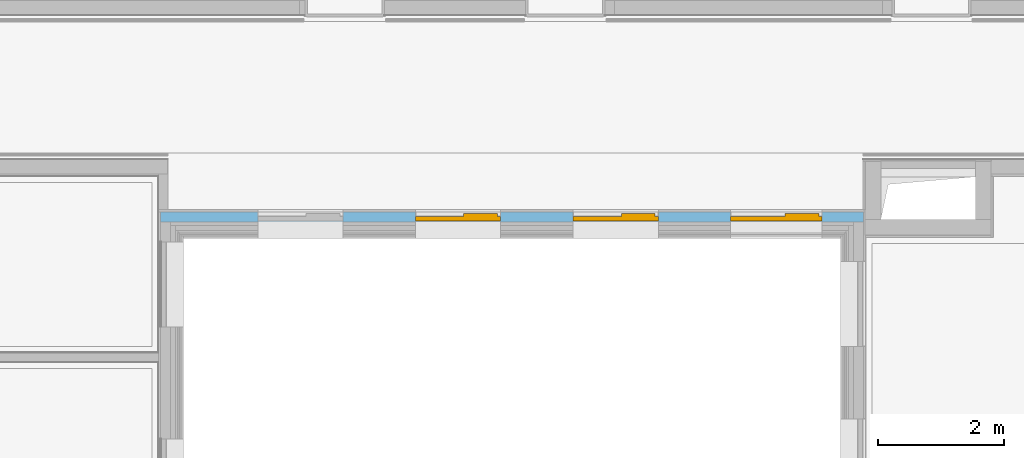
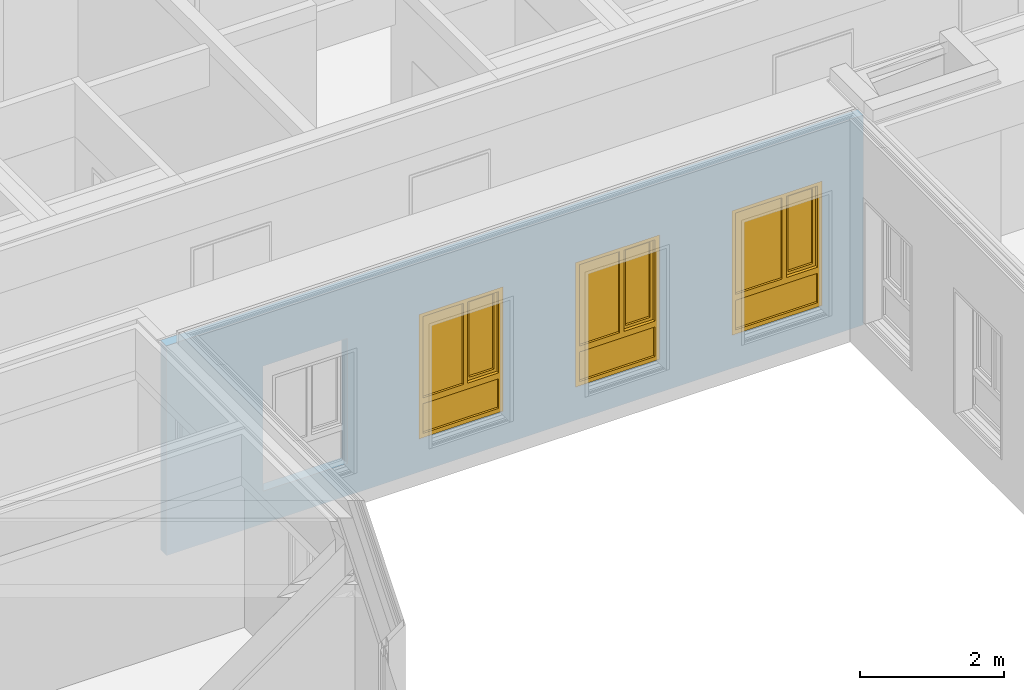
# One storey, part 76 of 222: 3 windows, 4 openings, plus 1 element that does not belong to this part.
"""IFC4 building model written with IfcOpenShell, lengths in metres."""

from ifc_helpers import new_model, entity, si_unit, converted_unit, derived_unit, frame, frame_2d, origin, origin_with_axes, place, context, subcontext, project, spatial, polyline, rectangle, outline, extrude, closed_shell, open_shell, surface_model, source, transform, mapped, material, element, fill, save


model = new_model("IFC4")

# Units and contexts
model_context = context("Model", 3, precision=1e-05, world=origin())
body_context = subcontext(model_context, "Body", "Model", "MODEL_VIEW")
ifc_project = project(units=[si_unit("LENGTHUNIT", "METRE"), si_unit("AREAUNIT", "SQUARE_METRE"), si_unit("VOLUMEUNIT", "CUBIC_METRE"), si_unit("MASSUNIT", "GRAM", prefix="KILO"), converted_unit("PLANEANGLEUNIT", "DEGREE", entity("IfcPlaneAngleMeasure", 0.0174532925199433), si_unit("PLANEANGLEUNIT", "RADIAN"), dimensions=[0, 0, 0, 0, 0, 0, 0]), derived_unit("THERMALTRANSMITTANCEUNIT", [(si_unit("POWERUNIT", "WATT"), 1), (si_unit("THERMODYNAMICTEMPERATUREUNIT", "KELVIN"), -1), (si_unit("LENGTHUNIT", "METRE"), -2)]), derived_unit("VOLUMETRICFLOWRATEUNIT", [(si_unit("LENGTHUNIT", "METRE"), 3), (converted_unit("TIMEUNIT", "hour", entity("IfcTimeMeasure", 3600.0), si_unit("TIMEUNIT", "SECOND"), dimensions=[0, 0, 1, 0, 0, 0, 0]), -1), (si_unit("LENGTHUNIT", "METRE"), -1)])], contexts=[model_context])

# Site, building, storey
site_placement = place(None, origin())
site = spatial("IfcSite", under=ifc_project, at=site_placement, Name="Psychiatrie Neubau Wunstorf", CompositionType="ELEMENT")
building_placement = place(site_placement, origin())
building = spatial("IfcBuilding", under=site, at=building_placement, Name="Neubau H2 Stationsgebäude", CompositionType="ELEMENT")
storey_placement = place(building_placement, frame((0.0, 0.0, 3.6)))
storey = spatial("IfcBuildingStorey", under=building, at=storey_placement, Name="H2 Ebene +1", CompositionType="ELEMENT", Elevation=3.6)

# Wall, openings, windows
ifc_material = material(Name="WA-DL")
wall_placement = place(storey_placement, frame((26.825, 21.0016528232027, 0.0), z_axis=(0.0, 0.0, 1.0), x_axis=(-1.0, 0.0, 0.0)))
wall = element("IfcWall", 1, at=wall_placement, inside=storey, material=ifc_material, context=body_context, shape_type="SweptSolid", body=[
    extrude(rectangle(XDim=11.15, YDim=0.16, at=frame_2d((5.575, 0.08), x_axis=(1.0, 0.0))), origin_with_axes(), (0.0, 0.0, 1.0), 3.55),
])
opening_1_placement = place(wall_placement, frame((2.10483590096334, 0.16, 0.55), z_axis=(0.0, -1.0, 0.0), x_axis=(0.0, 0.0, 1.0)))
opening_1 = element("IfcOpeningElement", 2, at=opening_1_placement, cuts=wall, Name="Fensteröffnung", ObjectType="Opening", context=body_context, shape_type="SweptSolid", body=[
    extrude(outline(polyline([(2.115, 1.45), (2.115, 0.0), (0.0, 0.0), (0.0, 1.45), (2.115, 1.45)])), origin_with_axes(), (0.0, 0.0, 1.0), 0.16),
])
opening_2_placement = place(wall_placement, frame((4.60474878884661, 0.16, 0.55), z_axis=(0.0, -1.0, 0.0), x_axis=(0.0, 0.0, 1.0)))
opening_2 = element("IfcOpeningElement", 3, at=opening_2_placement, cuts=wall, Name="Fensteröffnung", ObjectType="Opening", context=body_context, shape_type="SweptSolid", body=[
    extrude(outline(polyline([(2.115, 1.35), (2.115, 0.0), (0.0, 0.0), (0.0, 1.35), (2.115, 1.35)])), origin_with_axes(), (0.0, 0.0, 1.0), 0.16),
])
opening_3_placement = place(wall_placement, frame((7.1047487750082, 0.16, 0.55), z_axis=(0.0, -1.0, 0.0), x_axis=(0.0, 0.0, 1.0)))
opening_3 = element("IfcOpeningElement", 4, at=opening_3_placement, cuts=wall, Name="Fensteröffnung", ObjectType="Opening", context=body_context, shape_type="SweptSolid", body=[
    extrude(outline(polyline([(2.115, 1.35), (2.115, 0.0), (0.0, 0.0), (0.0, 1.35), (2.115, 1.35)])), origin_with_axes(), (0.0, 0.0, 1.0), 0.16),
])
opening_4_placement = place(wall_placement, frame((9.60474878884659, 0.16, 0.55), z_axis=(0.0, -1.0, 0.0), x_axis=(0.0, 0.0, 1.0)))
element("IfcOpeningElement", 5, at=opening_4_placement, cuts=wall, Name="Fensteröffnung", ObjectType="Opening", context=body_context, shape_type="SweptSolid", body=[
    extrude(outline(polyline([(2.115, 1.35), (2.115, 0.0), (0.0, 0.0), (0.0, 1.35), (2.115, 1.35)])), origin_with_axes(), (0.0, 0.0, 1.0), 0.16),
])
shared_shape_1 = source(origin_with_axes(), body_context, "Body", "SurfaceModel", [
    surface_model("IfcShellBasedSurfaceModel", [(0.0, 0.000347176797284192, 2.115), (0.07, 0.000347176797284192, 2.115), (0.07, 0.000347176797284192, 0.0), (0.0, 0.000347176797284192, 0.0), (0.0, 0.0703471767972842, 0.0), (0.07, 0.0703471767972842, 0.0), (0.07, 0.0703471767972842, 2.115), (0.0, 0.0703471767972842, 2.115)], [closed_shell([[[0, 1, 2, 3]], [[4, 5, 6, 7]], [[3, 4, 7, 0]], [[2, 5, 4, 3]], [[1, 6, 5, 2]], [[0, 7, 6, 1]]], orient=[[False], [False], [False], [False], [False], [False]])]),
    surface_model("IfcShellBasedSurfaceModel", [(1.38, 0.000347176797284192, 2.115), (1.45, 0.000347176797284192, 2.115), (1.45, 0.000347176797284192, 0.0), (1.38, 0.000347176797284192, 0.0), (1.38, 0.0703471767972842, 0.0), (1.45, 0.0703471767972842, 0.0), (1.45, 0.0703471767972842, 2.115), (1.38, 0.0703471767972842, 2.115)], [closed_shell([[[0, 1, 2, 3]], [[4, 5, 6, 7]], [[3, 4, 7, 0]], [[2, 5, 4, 3]], [[1, 6, 5, 2]], [[0, 7, 6, 1]]], orient=[[False], [False], [False], [False], [False], [False]])]),
    surface_model("IfcShellBasedSurfaceModel", [(0.07, 0.000347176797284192, 0.07), (1.38, 0.000347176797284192, 0.07), (1.38, 0.000347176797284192, 0.0), (0.07, 0.000347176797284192, 0.0), (0.07, 0.0703471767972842, 0.0), (1.38, 0.0703471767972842, 0.0), (1.38, 0.0703471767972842, 0.07), (0.07, 0.0703471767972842, 0.07)], [closed_shell([[[0, 1, 2, 3]], [[4, 5, 6, 7]], [[3, 4, 7, 0]], [[2, 5, 4, 3]], [[1, 6, 5, 2]], [[0, 7, 6, 1]]], orient=[[False], [False], [False], [False], [False], [False]])]),
    surface_model("IfcShellBasedSurfaceModel", [(0.07, 0.000347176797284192, 2.115), (1.38, 0.000347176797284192, 2.115), (1.38, 0.000347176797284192, 2.045), (0.07, 0.000347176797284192, 2.045), (0.07, 0.0703471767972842, 2.045), (1.38, 0.0703471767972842, 2.045), (1.38, 0.0703471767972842, 2.115), (0.07, 0.0703471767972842, 2.115)], [closed_shell([[[0, 1, 2, 3]], [[4, 5, 6, 7]], [[3, 4, 7, 0]], [[2, 5, 4, 3]], [[1, 6, 5, 2]], [[0, 7, 6, 1]]], orient=[[False], [False], [False], [False], [False], [False]])]),
    surface_model("IfcShellBasedSurfaceModel", [(0.07, 0.000347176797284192, 0.67), (1.38, 0.000347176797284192, 0.67), (1.38, 0.000347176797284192, 0.57), (0.07, 0.000347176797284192, 0.57), (0.07, 0.0703471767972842, 0.57), (1.38, 0.0703471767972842, 0.57), (1.38, 0.0703471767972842, 0.67), (0.07, 0.0703471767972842, 0.67)], [closed_shell([[[0, 1, 2, 3]], [[4, 5, 6, 7]], [[3, 4, 7, 0]], [[2, 5, 4, 3]], [[1, 6, 5, 2]], [[0, 7, 6, 1]]], orient=[[False], [False], [False], [False], [False], [False]])]),
    surface_model("IfcShellBasedSurfaceModel", [(0.07, 0.0353471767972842, 0.07), (0.07, 0.0353471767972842, 0.57), (1.38, 0.0353471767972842, 0.57), (1.38, 0.0353471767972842, 0.07)], [open_shell([[[0, 1, 2, 3]]], orient=[[False]])]),
    surface_model("IfcShellBasedSurfaceModel", [(0.565700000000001, 0.000347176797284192, 2.045), (0.635700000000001, 0.000347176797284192, 2.045), (0.635700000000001, 0.000347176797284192, 0.67), (0.565700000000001, 0.000347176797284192, 0.67), (0.565700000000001, 0.0703471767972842, 0.67), (0.635700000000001, 0.0703471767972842, 0.67), (0.635700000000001, 0.0703471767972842, 2.045), (0.565700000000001, 0.0703471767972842, 2.045)], [closed_shell([[[0, 1, 2, 3]], [[4, 5, 6, 7]], [[3, 4, 7, 0]], [[2, 5, 4, 3]], [[1, 6, 5, 2]], [[0, 7, 6, 1]]], orient=[[False], [False], [False], [False], [False], [False]])]),
    surface_model("IfcShellBasedSurfaceModel", [(0.05, -0.0496528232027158, 2.065), (0.12, -0.0496528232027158, 2.065), (0.12, -0.0496528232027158, 0.65), (0.05, -0.0496528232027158, 0.65), (0.05, 0.0203471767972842, 0.65), (0.12, 0.0203471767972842, 0.65), (0.12, 0.0203471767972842, 2.065), (0.05, 0.0203471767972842, 2.065)], [closed_shell([[[0, 1, 2, 3]], [[4, 5, 6, 7]], [[3, 4, 7, 0]], [[2, 5, 4, 3]], [[1, 6, 5, 2]], [[0, 7, 6, 1]]], orient=[[False], [False], [False], [False], [False], [False]])]),
    surface_model("IfcShellBasedSurfaceModel", [(0.515700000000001, -0.0496528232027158, 2.065), (0.585700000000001, -0.0496528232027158, 2.065), (0.585700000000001, -0.0496528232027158, 0.65), (0.515700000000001, -0.0496528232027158, 0.65), (0.515700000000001, 0.0203471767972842, 0.65), (0.585700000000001, 0.0203471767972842, 0.65), (0.585700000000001, 0.0203471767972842, 2.065), (0.515700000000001, 0.0203471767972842, 2.065)], [closed_shell([[[0, 1, 2, 3]], [[4, 5, 6, 7]], [[3, 4, 7, 0]], [[2, 5, 4, 3]], [[1, 6, 5, 2]], [[0, 7, 6, 1]]], orient=[[False], [False], [False], [False], [False], [False]])]),
    surface_model("IfcShellBasedSurfaceModel", [(0.12, -0.0496528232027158, 0.72), (0.515700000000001, -0.0496528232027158, 0.72), (0.515700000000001, -0.0496528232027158, 0.65), (0.12, -0.0496528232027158, 0.65), (0.12, 0.0203471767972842, 0.65), (0.515700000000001, 0.0203471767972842, 0.65), (0.515700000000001, 0.0203471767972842, 0.72), (0.12, 0.0203471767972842, 0.72)], [closed_shell([[[0, 1, 2, 3]], [[4, 5, 6, 7]], [[3, 4, 7, 0]], [[2, 5, 4, 3]], [[1, 6, 5, 2]], [[0, 7, 6, 1]]], orient=[[False], [False], [False], [False], [False], [False]])]),
    surface_model("IfcShellBasedSurfaceModel", [(0.12, -0.0496528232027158, 2.065), (0.515700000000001, -0.0496528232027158, 2.065), (0.515700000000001, -0.0496528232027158, 1.995), (0.12, -0.0496528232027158, 1.995), (0.12, 0.0203471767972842, 1.995), (0.515700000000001, 0.0203471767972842, 1.995), (0.515700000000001, 0.0203471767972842, 2.065), (0.12, 0.0203471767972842, 2.065)], [closed_shell([[[0, 1, 2, 3]], [[4, 5, 6, 7]], [[3, 4, 7, 0]], [[2, 5, 4, 3]], [[1, 6, 5, 2]], [[0, 7, 6, 1]]], orient=[[False], [False], [False], [False], [False], [False]])]),
    surface_model("IfcShellBasedSurfaceModel", [(0.635700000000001, 0.0353471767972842, 0.67), (0.635700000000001, 0.0353471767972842, 2.045), (1.38, 0.0353471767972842, 2.045), (1.38, 0.0353471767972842, 0.67)], [open_shell([[[0, 1, 2, 3]]], orient=[[False]])]),
    surface_model("IfcShellBasedSurfaceModel", [(0.12, -0.0146528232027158, 0.72), (0.12, -0.0146528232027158, 1.995), (0.515700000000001, -0.0146528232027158, 1.995), (0.515700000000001, -0.0146528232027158, 0.72)], [open_shell([[[0, 1, 2, 3]]], orient=[[False]])]),
])
window_1_placement = place(opening_1_placement, frame((0.0, 1.45, 0.0863471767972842), z_axis=(1.0, 0.0, 0.0), x_axis=(0.0, -1.0, 0.0)))
window_1 = element("IfcWindow", 6, at=window_1_placement, inside=storey, Name="Fenster", OverallHeight=2.115, OverallWidth=1.45, PartitioningType="USERDEFINED", PredefinedType="WINDOW", context=body_context, shape_type="MappedRepresentation", body=[
    mapped(shared_shape_1, transform((0.0, 0.0, 0.0), x_axis=(1.0, 0.0, 0.0), y_axis=(0.0, 1.0, 0.0), z_axis=(0.0, 0.0, 1.0), scale=1.0)),
])
fill(opening_1, window_1)
shared_shape_2 = source(origin_with_axes(), body_context, "Body", "SurfaceModel", [
    surface_model("IfcShellBasedSurfaceModel", [(0.0, 0.000347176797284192, 2.115), (0.07, 0.000347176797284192, 2.115), (0.07, 0.000347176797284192, 0.0), (0.0, 0.000347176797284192, 0.0), (0.0, 0.0703471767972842, 0.0), (0.07, 0.0703471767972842, 0.0), (0.07, 0.0703471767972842, 2.115), (0.0, 0.0703471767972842, 2.115)], [closed_shell([[[0, 1, 2, 3]], [[4, 5, 6, 7]], [[3, 4, 7, 0]], [[2, 5, 4, 3]], [[1, 6, 5, 2]], [[0, 7, 6, 1]]], orient=[[False], [False], [False], [False], [False], [False]])]),
    surface_model("IfcShellBasedSurfaceModel", [(1.28, 0.000347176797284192, 2.115), (1.35, 0.000347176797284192, 2.115), (1.35, 0.000347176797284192, 0.0), (1.28, 0.000347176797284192, 0.0), (1.28, 0.0703471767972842, 0.0), (1.35, 0.0703471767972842, 0.0), (1.35, 0.0703471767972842, 2.115), (1.28, 0.0703471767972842, 2.115)], [closed_shell([[[0, 1, 2, 3]], [[4, 5, 6, 7]], [[3, 4, 7, 0]], [[2, 5, 4, 3]], [[1, 6, 5, 2]], [[0, 7, 6, 1]]], orient=[[False], [False], [False], [False], [False], [False]])]),
    surface_model("IfcShellBasedSurfaceModel", [(0.07, 0.000347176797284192, 0.07), (1.28, 0.000347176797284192, 0.07), (1.28, 0.000347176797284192, 0.0), (0.07, 0.000347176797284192, 0.0), (0.07, 0.0703471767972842, 0.0), (1.28, 0.0703471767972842, 0.0), (1.28, 0.0703471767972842, 0.07), (0.07, 0.0703471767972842, 0.07)], [closed_shell([[[0, 1, 2, 3]], [[4, 5, 6, 7]], [[3, 4, 7, 0]], [[2, 5, 4, 3]], [[1, 6, 5, 2]], [[0, 7, 6, 1]]], orient=[[False], [False], [False], [False], [False], [False]])]),
    surface_model("IfcShellBasedSurfaceModel", [(0.07, 0.000347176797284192, 2.115), (1.28, 0.000347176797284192, 2.115), (1.28, 0.000347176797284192, 2.045), (0.07, 0.000347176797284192, 2.045), (0.07, 0.0703471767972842, 2.045), (1.28, 0.0703471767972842, 2.045), (1.28, 0.0703471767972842, 2.115), (0.07, 0.0703471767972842, 2.115)], [closed_shell([[[0, 1, 2, 3]], [[4, 5, 6, 7]], [[3, 4, 7, 0]], [[2, 5, 4, 3]], [[1, 6, 5, 2]], [[0, 7, 6, 1]]], orient=[[False], [False], [False], [False], [False], [False]])]),
    surface_model("IfcShellBasedSurfaceModel", [(0.07, 0.000347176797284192, 0.67), (1.28, 0.000347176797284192, 0.67), (1.28, 0.000347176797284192, 0.57), (0.07, 0.000347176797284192, 0.57), (0.07, 0.0703471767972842, 0.57), (1.28, 0.0703471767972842, 0.57), (1.28, 0.0703471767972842, 0.67), (0.07, 0.0703471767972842, 0.67)], [closed_shell([[[0, 1, 2, 3]], [[4, 5, 6, 7]], [[3, 4, 7, 0]], [[2, 5, 4, 3]], [[1, 6, 5, 2]], [[0, 7, 6, 1]]], orient=[[False], [False], [False], [False], [False], [False]])]),
    surface_model("IfcShellBasedSurfaceModel", [(0.07, 0.0353471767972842, 0.07), (0.07, 0.0353471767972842, 0.57), (1.28, 0.0353471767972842, 0.57), (1.28, 0.0353471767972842, 0.07)], [open_shell([[[0, 1, 2, 3]]], orient=[[False]])]),
    surface_model("IfcShellBasedSurfaceModel", [(0.565700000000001, 0.000347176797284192, 2.045), (0.635700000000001, 0.000347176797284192, 2.045), (0.635700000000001, 0.000347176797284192, 0.67), (0.565700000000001, 0.000347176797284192, 0.67), (0.565700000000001, 0.0703471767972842, 0.67), (0.635700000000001, 0.0703471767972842, 0.67), (0.635700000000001, 0.0703471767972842, 2.045), (0.565700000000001, 0.0703471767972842, 2.045)], [closed_shell([[[0, 1, 2, 3]], [[4, 5, 6, 7]], [[3, 4, 7, 0]], [[2, 5, 4, 3]], [[1, 6, 5, 2]], [[0, 7, 6, 1]]], orient=[[False], [False], [False], [False], [False], [False]])]),
    surface_model("IfcShellBasedSurfaceModel", [(0.05, -0.0496528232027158, 2.065), (0.12, -0.0496528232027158, 2.065), (0.12, -0.0496528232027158, 0.65), (0.05, -0.0496528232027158, 0.65), (0.05, 0.0203471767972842, 0.65), (0.12, 0.0203471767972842, 0.65), (0.12, 0.0203471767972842, 2.065), (0.05, 0.0203471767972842, 2.065)], [closed_shell([[[0, 1, 2, 3]], [[4, 5, 6, 7]], [[3, 4, 7, 0]], [[2, 5, 4, 3]], [[1, 6, 5, 2]], [[0, 7, 6, 1]]], orient=[[False], [False], [False], [False], [False], [False]])]),
    surface_model("IfcShellBasedSurfaceModel", [(0.515700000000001, -0.0496528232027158, 2.065), (0.585700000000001, -0.0496528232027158, 2.065), (0.585700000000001, -0.0496528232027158, 0.65), (0.515700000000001, -0.0496528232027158, 0.65), (0.515700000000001, 0.0203471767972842, 0.65), (0.585700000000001, 0.0203471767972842, 0.65), (0.585700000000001, 0.0203471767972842, 2.065), (0.515700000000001, 0.0203471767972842, 2.065)], [closed_shell([[[0, 1, 2, 3]], [[4, 5, 6, 7]], [[3, 4, 7, 0]], [[2, 5, 4, 3]], [[1, 6, 5, 2]], [[0, 7, 6, 1]]], orient=[[False], [False], [False], [False], [False], [False]])]),
    surface_model("IfcShellBasedSurfaceModel", [(0.12, -0.0496528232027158, 0.72), (0.515700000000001, -0.0496528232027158, 0.72), (0.515700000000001, -0.0496528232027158, 0.65), (0.12, -0.0496528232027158, 0.65), (0.12, 0.0203471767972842, 0.65), (0.515700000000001, 0.0203471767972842, 0.65), (0.515700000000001, 0.0203471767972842, 0.72), (0.12, 0.0203471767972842, 0.72)], [closed_shell([[[0, 1, 2, 3]], [[4, 5, 6, 7]], [[3, 4, 7, 0]], [[2, 5, 4, 3]], [[1, 6, 5, 2]], [[0, 7, 6, 1]]], orient=[[False], [False], [False], [False], [False], [False]])]),
    surface_model("IfcShellBasedSurfaceModel", [(0.12, -0.0496528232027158, 2.065), (0.515700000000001, -0.0496528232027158, 2.065), (0.515700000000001, -0.0496528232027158, 1.995), (0.12, -0.0496528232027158, 1.995), (0.12, 0.0203471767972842, 1.995), (0.515700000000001, 0.0203471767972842, 1.995), (0.515700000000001, 0.0203471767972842, 2.065), (0.12, 0.0203471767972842, 2.065)], [closed_shell([[[0, 1, 2, 3]], [[4, 5, 6, 7]], [[3, 4, 7, 0]], [[2, 5, 4, 3]], [[1, 6, 5, 2]], [[0, 7, 6, 1]]], orient=[[False], [False], [False], [False], [False], [False]])]),
    surface_model("IfcShellBasedSurfaceModel", [(0.635700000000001, 0.0353471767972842, 0.67), (0.635700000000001, 0.0353471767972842, 2.045), (1.28, 0.0353471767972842, 2.045), (1.28, 0.0353471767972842, 0.67)], [open_shell([[[0, 1, 2, 3]]], orient=[[False]])]),
    surface_model("IfcShellBasedSurfaceModel", [(0.12, -0.0146528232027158, 0.72), (0.12, -0.0146528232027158, 1.995), (0.515700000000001, -0.0146528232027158, 1.995), (0.515700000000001, -0.0146528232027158, 0.72)], [open_shell([[[0, 1, 2, 3]]], orient=[[False]])]),
])
window_2_placement = place(opening_2_placement, frame((0.0, 1.35, 0.0863471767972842), z_axis=(1.0, 0.0, 0.0), x_axis=(0.0, -1.0, 0.0)))
window_2 = element("IfcWindow", 7, at=window_2_placement, inside=storey, Name="Fenster", OverallHeight=2.115, OverallWidth=1.35, PartitioningType="USERDEFINED", PredefinedType="WINDOW", context=body_context, shape_type="MappedRepresentation", body=[
    mapped(shared_shape_2, transform((0.0, 0.0, 0.0), x_axis=(1.0, 0.0, 0.0), y_axis=(0.0, 1.0, 0.0), z_axis=(0.0, 0.0, 1.0), scale=1.0)),
])
fill(opening_2, window_2)
shared_shape_3 = source(origin_with_axes(), body_context, "Body", "SurfaceModel", [
    surface_model("IfcShellBasedSurfaceModel", [(0.0, 0.000347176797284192, 2.115), (0.07, 0.000347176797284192, 2.115), (0.07, 0.000347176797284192, 0.0), (0.0, 0.000347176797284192, 0.0), (0.0, 0.0703471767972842, 0.0), (0.07, 0.0703471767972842, 0.0), (0.07, 0.0703471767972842, 2.115), (0.0, 0.0703471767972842, 2.115)], [closed_shell([[[0, 1, 2, 3]], [[4, 5, 6, 7]], [[3, 4, 7, 0]], [[2, 5, 4, 3]], [[1, 6, 5, 2]], [[0, 7, 6, 1]]], orient=[[False], [False], [False], [False], [False], [False]])]),
    surface_model("IfcShellBasedSurfaceModel", [(1.28, 0.000347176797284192, 2.115), (1.35, 0.000347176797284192, 2.115), (1.35, 0.000347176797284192, 0.0), (1.28, 0.000347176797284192, 0.0), (1.28, 0.0703471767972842, 0.0), (1.35, 0.0703471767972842, 0.0), (1.35, 0.0703471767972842, 2.115), (1.28, 0.0703471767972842, 2.115)], [closed_shell([[[0, 1, 2, 3]], [[4, 5, 6, 7]], [[3, 4, 7, 0]], [[2, 5, 4, 3]], [[1, 6, 5, 2]], [[0, 7, 6, 1]]], orient=[[False], [False], [False], [False], [False], [False]])]),
    surface_model("IfcShellBasedSurfaceModel", [(0.07, 0.000347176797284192, 0.07), (1.28, 0.000347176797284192, 0.07), (1.28, 0.000347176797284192, 0.0), (0.07, 0.000347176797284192, 0.0), (0.07, 0.0703471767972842, 0.0), (1.28, 0.0703471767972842, 0.0), (1.28, 0.0703471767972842, 0.07), (0.07, 0.0703471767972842, 0.07)], [closed_shell([[[0, 1, 2, 3]], [[4, 5, 6, 7]], [[3, 4, 7, 0]], [[2, 5, 4, 3]], [[1, 6, 5, 2]], [[0, 7, 6, 1]]], orient=[[False], [False], [False], [False], [False], [False]])]),
    surface_model("IfcShellBasedSurfaceModel", [(0.07, 0.000347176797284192, 2.115), (1.28, 0.000347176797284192, 2.115), (1.28, 0.000347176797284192, 2.045), (0.07, 0.000347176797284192, 2.045), (0.07, 0.0703471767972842, 2.045), (1.28, 0.0703471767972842, 2.045), (1.28, 0.0703471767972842, 2.115), (0.07, 0.0703471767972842, 2.115)], [closed_shell([[[0, 1, 2, 3]], [[4, 5, 6, 7]], [[3, 4, 7, 0]], [[2, 5, 4, 3]], [[1, 6, 5, 2]], [[0, 7, 6, 1]]], orient=[[False], [False], [False], [False], [False], [False]])]),
    surface_model("IfcShellBasedSurfaceModel", [(0.07, 0.000347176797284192, 0.67), (1.28, 0.000347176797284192, 0.67), (1.28, 0.000347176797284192, 0.57), (0.07, 0.000347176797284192, 0.57), (0.07, 0.0703471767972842, 0.57), (1.28, 0.0703471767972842, 0.57), (1.28, 0.0703471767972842, 0.67), (0.07, 0.0703471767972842, 0.67)], [closed_shell([[[0, 1, 2, 3]], [[4, 5, 6, 7]], [[3, 4, 7, 0]], [[2, 5, 4, 3]], [[1, 6, 5, 2]], [[0, 7, 6, 1]]], orient=[[False], [False], [False], [False], [False], [False]])]),
    surface_model("IfcShellBasedSurfaceModel", [(0.07, 0.0353471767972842, 0.07), (0.07, 0.0353471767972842, 0.57), (1.28, 0.0353471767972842, 0.57), (1.28, 0.0353471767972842, 0.07)], [open_shell([[[0, 1, 2, 3]]], orient=[[False]])]),
    surface_model("IfcShellBasedSurfaceModel", [(0.565700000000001, 0.000347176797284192, 2.045), (0.635700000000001, 0.000347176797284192, 2.045), (0.635700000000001, 0.000347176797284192, 0.67), (0.565700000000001, 0.000347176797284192, 0.67), (0.565700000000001, 0.0703471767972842, 0.67), (0.635700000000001, 0.0703471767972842, 0.67), (0.635700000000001, 0.0703471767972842, 2.045), (0.565700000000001, 0.0703471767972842, 2.045)], [closed_shell([[[0, 1, 2, 3]], [[4, 5, 6, 7]], [[3, 4, 7, 0]], [[2, 5, 4, 3]], [[1, 6, 5, 2]], [[0, 7, 6, 1]]], orient=[[False], [False], [False], [False], [False], [False]])]),
    surface_model("IfcShellBasedSurfaceModel", [(0.05, -0.0496528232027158, 2.065), (0.12, -0.0496528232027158, 2.065), (0.12, -0.0496528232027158, 0.65), (0.05, -0.0496528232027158, 0.65), (0.05, 0.0203471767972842, 0.65), (0.12, 0.0203471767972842, 0.65), (0.12, 0.0203471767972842, 2.065), (0.05, 0.0203471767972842, 2.065)], [closed_shell([[[0, 1, 2, 3]], [[4, 5, 6, 7]], [[3, 4, 7, 0]], [[2, 5, 4, 3]], [[1, 6, 5, 2]], [[0, 7, 6, 1]]], orient=[[False], [False], [False], [False], [False], [False]])]),
    surface_model("IfcShellBasedSurfaceModel", [(0.515700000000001, -0.0496528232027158, 2.065), (0.585700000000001, -0.0496528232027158, 2.065), (0.585700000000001, -0.0496528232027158, 0.65), (0.515700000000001, -0.0496528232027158, 0.65), (0.515700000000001, 0.0203471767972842, 0.65), (0.585700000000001, 0.0203471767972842, 0.65), (0.585700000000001, 0.0203471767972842, 2.065), (0.515700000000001, 0.0203471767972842, 2.065)], [closed_shell([[[0, 1, 2, 3]], [[4, 5, 6, 7]], [[3, 4, 7, 0]], [[2, 5, 4, 3]], [[1, 6, 5, 2]], [[0, 7, 6, 1]]], orient=[[False], [False], [False], [False], [False], [False]])]),
    surface_model("IfcShellBasedSurfaceModel", [(0.12, -0.0496528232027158, 0.72), (0.515700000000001, -0.0496528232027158, 0.72), (0.515700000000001, -0.0496528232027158, 0.65), (0.12, -0.0496528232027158, 0.65), (0.12, 0.0203471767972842, 0.65), (0.515700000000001, 0.0203471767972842, 0.65), (0.515700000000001, 0.0203471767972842, 0.72), (0.12, 0.0203471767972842, 0.72)], [closed_shell([[[0, 1, 2, 3]], [[4, 5, 6, 7]], [[3, 4, 7, 0]], [[2, 5, 4, 3]], [[1, 6, 5, 2]], [[0, 7, 6, 1]]], orient=[[False], [False], [False], [False], [False], [False]])]),
    surface_model("IfcShellBasedSurfaceModel", [(0.12, -0.0496528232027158, 2.065), (0.515700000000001, -0.0496528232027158, 2.065), (0.515700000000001, -0.0496528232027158, 1.995), (0.12, -0.0496528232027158, 1.995), (0.12, 0.0203471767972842, 1.995), (0.515700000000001, 0.0203471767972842, 1.995), (0.515700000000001, 0.0203471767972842, 2.065), (0.12, 0.0203471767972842, 2.065)], [closed_shell([[[0, 1, 2, 3]], [[4, 5, 6, 7]], [[3, 4, 7, 0]], [[2, 5, 4, 3]], [[1, 6, 5, 2]], [[0, 7, 6, 1]]], orient=[[False], [False], [False], [False], [False], [False]])]),
    surface_model("IfcShellBasedSurfaceModel", [(0.635700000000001, 0.0353471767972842, 0.67), (0.635700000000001, 0.0353471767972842, 2.045), (1.28, 0.0353471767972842, 2.045), (1.28, 0.0353471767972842, 0.67)], [open_shell([[[0, 1, 2, 3]]], orient=[[False]])]),
    surface_model("IfcShellBasedSurfaceModel", [(0.12, -0.0146528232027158, 0.72), (0.12, -0.0146528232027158, 1.995), (0.515700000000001, -0.0146528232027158, 1.995), (0.515700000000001, -0.0146528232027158, 0.72)], [open_shell([[[0, 1, 2, 3]]], orient=[[False]])]),
])
window_3_placement = place(opening_3_placement, frame((0.0, 1.35, 0.0863471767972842), z_axis=(1.0, 0.0, 0.0), x_axis=(0.0, -1.0, 0.0)))
window_3 = element("IfcWindow", 8, at=window_3_placement, inside=storey, Name="Fenster", OverallHeight=2.115, OverallWidth=1.35, PartitioningType="USERDEFINED", PredefinedType="WINDOW", context=body_context, shape_type="MappedRepresentation", body=[
    mapped(shared_shape_3, transform((0.0, 0.0, 0.0), x_axis=(1.0, 0.0, 0.0), y_axis=(0.0, 1.0, 0.0), z_axis=(0.0, 0.0, 1.0), scale=1.0)),
])
fill(opening_3, window_3)

save(model, "model.ifc")
